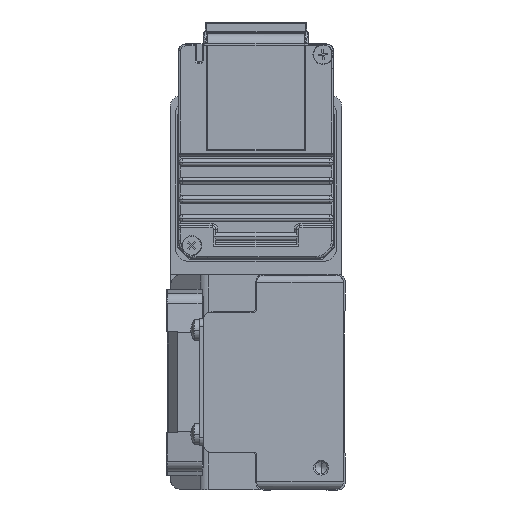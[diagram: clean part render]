
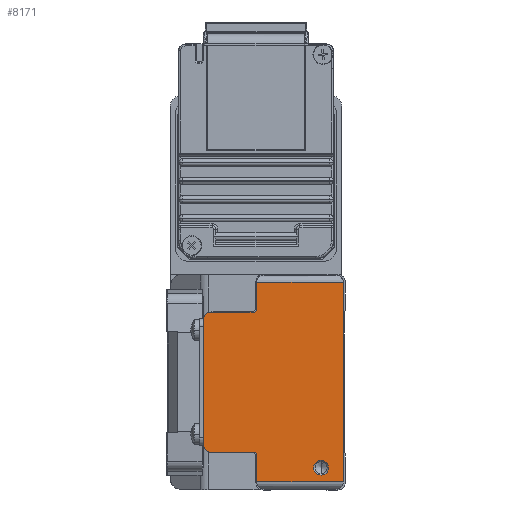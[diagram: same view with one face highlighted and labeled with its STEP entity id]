
A CAD part, left-side view. The second image highlights one B-rep face of the part: STEP entity #8171.
In plain terms, the highlighted planar face has unit normal (-1, 0, 0) as drawn and (0, 0, 1) by its records, which use the part's own axes.
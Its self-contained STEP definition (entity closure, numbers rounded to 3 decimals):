
#1043 = EDGE_LOOP ( 'NONE', ( #35201, #5279 ) ) ;
#1186 = CARTESIAN_POINT ( 'NONE',  ( 19.8, 23.8, 920. ) ) ;
#1639 = VERTEX_POINT ( 'NONE', #4481 ) ;
#1907 = CARTESIAN_POINT ( 'NONE',  ( 26.8, 23.8, 920. ) ) ;
#2603 = EDGE_CURVE ( 'NONE', #1639, #8890, #9750, .T. ) ;
#2639 = LINE ( 'NONE', #2874, #23927 ) ;
#2874 = CARTESIAN_POINT ( 'NONE',  ( -18.8, 36.5, 920. ) ) ;
#3330 = CARTESIAN_POINT ( 'NONE',  ( 17.3, 36.5, 920. ) ) ;
#3554 = DIRECTION ( 'NONE',  ( 0., 0., 1. ) ) ;
#3935 = VECTOR ( 'NONE', #27468, 1000. ) ;
#4034 = EDGE_CURVE ( 'NONE', #36002, #36193, #9581, .T. ) ;
#4310 = ORIENTED_EDGE ( 'NONE', *, *, #44993, .T. ) ;
#4481 = CARTESIAN_POINT ( 'NONE',  ( 18.8, 36.5, 920. ) ) ;
#4890 = AXIS2_PLACEMENT_3D ( 'NONE', #31713, #45859, #14208 ) ;
#5279 = ORIENTED_EDGE ( 'NONE', *, *, #30602, .T. ) ;
#5516 = VERTEX_POINT ( 'NONE', #11711 ) ;
#6829 = CARTESIAN_POINT ( 'NONE',  ( -19.8, 23.8, 920. ) ) ;
#6941 = VECTOR ( 'NONE', #36110, 1000. ) ;
#7126 = LINE ( 'NONE', #21314, #15346 ) ;
#7818 = AXIS2_PLACEMENT_3D ( 'NONE', #9421, #9192, #37601 ) ;
#8171 = ADVANCED_FACE ( 'NONE', ( #14975, #22644 ), #15683, .T. ) ;
#8238 = VERTEX_POINT ( 'NONE', #45421 ) ;
#8322 = EDGE_CURVE ( 'NONE', #5516, #27614, #22115, .T. ) ;
#8685 = DIRECTION ( 'NONE',  ( 1., 0., 0. ) ) ;
#8890 = VERTEX_POINT ( 'NONE', #26391 ) ;
#9192 = DIRECTION ( 'NONE',  ( 0., 0., 1. ) ) ;
#9421 = CARTESIAN_POINT ( 'NONE',  ( -17.3, 36.5, 920. ) ) ;
#9495 = AXIS2_PLACEMENT_3D ( 'NONE', #35453, #3554, #17734 ) ;
#9581 = LINE ( 'NONE', #13773, #11297 ) ;
#9750 = CIRCLE ( 'NONE', #31370, 1.5 ) ;
#9796 = CARTESIAN_POINT ( 'NONE',  ( -25., 6.5, 920. ) ) ;
#10673 = EDGE_CURVE ( 'NONE', #19476, #8238, #32919, .T. ) ;
#10838 = DIRECTION ( 'NONE',  ( 1., 0., 0. ) ) ;
#10846 = EDGE_CURVE ( 'NONE', #22187, #39930, #40236, .T. ) ;
#11297 = VECTOR ( 'NONE', #16571, 1000. ) ;
#11711 = CARTESIAN_POINT ( 'NONE',  ( -19.8, 23.8, 920. ) ) ;
#12294 = CARTESIAN_POINT ( 'NONE',  ( 26.8, 0.5, 920. ) ) ;
#12777 = AXIS2_PLACEMENT_3D ( 'NONE', #42614, #21450, #14469 ) ;
#13515 = VERTEX_POINT ( 'NONE', #32532 ) ;
#13773 = CARTESIAN_POINT ( 'NONE',  ( 26.8, 24., 920. ) ) ;
#14208 = DIRECTION ( 'NONE',  ( -1., 0., 0. ) ) ;
#14291 = ORIENTED_EDGE ( 'NONE', *, *, #10846, .T. ) ;
#14469 = DIRECTION ( 'NONE',  ( -1., 0., 0. ) ) ;
#14975 = FACE_BOUND ( 'NONE', #1043, .T. ) ;
#15346 = VECTOR ( 'NONE', #35534, 1000. ) ;
#15683 = PLANE ( 'NONE',  #21678 ) ;
#15776 = EDGE_LOOP ( 'NONE', ( #34989, #25258, #37331, #14291, #31511, #34124, #4310, #41833, #29625, #34621, #43266, #20243 ) ) ;
#16571 = DIRECTION ( 'NONE',  ( 0., -1., 0. ) ) ;
#17069 = CARTESIAN_POINT ( 'NONE',  ( -18.8, 24.8, 920. ) ) ;
#17123 = EDGE_CURVE ( 'NONE', #39930, #36193, #28551, .T. ) ;
#17734 = DIRECTION ( 'NONE',  ( 1., 0., 0. ) ) ;
#17856 = EDGE_CURVE ( 'NONE', #30916, #22032, #40482, .T. ) ;
#18650 = CARTESIAN_POINT ( 'NONE',  ( 26.8, 23.8, 920. ) ) ;
#19399 = CARTESIAN_POINT ( 'NONE',  ( -26.8, 21.8, 920. ) ) ;
#19476 = VERTEX_POINT ( 'NONE', #9796 ) ;
#19626 = VECTOR ( 'NONE', #21702, 1000. ) ;
#19760 = CIRCLE ( 'NONE', #4890, 2. ) ;
#20243 = ORIENTED_EDGE ( 'NONE', *, *, #20728, .T. ) ;
#20320 = VERTEX_POINT ( 'NONE', #41445 ) ;
#20728 = EDGE_CURVE ( 'NONE', #13515, #20320, #36088, .T. ) ;
#21314 = CARTESIAN_POINT ( 'NONE',  ( 18.8, 24.8, 920. ) ) ;
#21450 = DIRECTION ( 'NONE',  ( 0., 0., -1. ) ) ;
#21678 = AXIS2_PLACEMENT_3D ( 'NONE', #19399, #26143, #8685 ) ;
#21689 = DIRECTION ( 'NONE',  ( 0., 0., 1. ) ) ;
#21702 = DIRECTION ( 'NONE',  ( -1., 0., 0. ) ) ;
#21931 = DIRECTION ( 'NONE',  ( 1., 0., 0. ) ) ;
#22032 = VERTEX_POINT ( 'NONE', #1186 ) ;
#22115 = CIRCLE ( 'NONE', #9495, 1. ) ;
#22187 = VERTEX_POINT ( 'NONE', #34453 ) ;
#22556 = VECTOR ( 'NONE', #10838, 1000. ) ;
#22644 = FACE_OUTER_BOUND ( 'NONE', #15776, .T. ) ;
#23422 = DIRECTION ( 'NONE',  ( 1., 0., 0. ) ) ;
#23927 = VECTOR ( 'NONE', #38240, 1000. ) ;
#24387 = LINE ( 'NONE', #38584, #28374 ) ;
#24474 = CARTESIAN_POINT ( 'NONE',  ( -26.8, 0.5, 920. ) ) ;
#25258 = ORIENTED_EDGE ( 'NONE', *, *, #8322, .F. ) ;
#26143 = DIRECTION ( 'NONE',  ( 0., 0., 1. ) ) ;
#26314 = CARTESIAN_POINT ( 'NONE',  ( -26.8, 24., 920. ) ) ;
#26391 = CARTESIAN_POINT ( 'NONE',  ( 17.3, 38., 920. ) ) ;
#27468 = DIRECTION ( 'NONE',  ( -1., 0., 0. ) ) ;
#27614 = VERTEX_POINT ( 'NONE', #17069 ) ;
#28374 = VECTOR ( 'NONE', #35114, 1000. ) ;
#28551 = LINE ( 'NONE', #42719, #22556 ) ;
#29625 = ORIENTED_EDGE ( 'NONE', *, *, #31041, .T. ) ;
#30602 = EDGE_CURVE ( 'NONE', #8238, #19476, #19760, .T. ) ;
#30916 = VERTEX_POINT ( 'NONE', #41536 ) ;
#31041 = EDGE_CURVE ( 'NONE', #30916, #1639, #7126, .T. ) ;
#31370 = AXIS2_PLACEMENT_3D ( 'NONE', #3330, #21689, #21931 ) ;
#31511 = ORIENTED_EDGE ( 'NONE', *, *, #17123, .T. ) ;
#31713 = CARTESIAN_POINT ( 'NONE',  ( -23., 6.5, 920. ) ) ;
#32532 = CARTESIAN_POINT ( 'NONE',  ( -17.3, 38., 920. ) ) ;
#32919 = CIRCLE ( 'NONE', #12777, 2. ) ;
#33801 = LINE ( 'NONE', #1907, #3935 ) ;
#34124 = ORIENTED_EDGE ( 'NONE', *, *, #4034, .F. ) ;
#34453 = CARTESIAN_POINT ( 'NONE',  ( -26.8, 23.8, 920. ) ) ;
#34566 = AXIS2_PLACEMENT_3D ( 'NONE', #37400, #38072, #23422 ) ;
#34621 = ORIENTED_EDGE ( 'NONE', *, *, #2603, .T. ) ;
#34952 = EDGE_CURVE ( 'NONE', #8890, #13515, #24387, .T. ) ;
#34989 = ORIENTED_EDGE ( 'NONE', *, *, #44660, .T. ) ;
#35114 = DIRECTION ( 'NONE',  ( -1., 0., 0. ) ) ;
#35201 = ORIENTED_EDGE ( 'NONE', *, *, #10673, .T. ) ;
#35249 = LINE ( 'NONE', #6829, #19626 ) ;
#35453 = CARTESIAN_POINT ( 'NONE',  ( -19.8, 24.8, 920. ) ) ;
#35534 = DIRECTION ( 'NONE',  ( 0., 1., 0. ) ) ;
#36002 = VERTEX_POINT ( 'NONE', #18650 ) ;
#36088 = CIRCLE ( 'NONE', #7818, 1.5 ) ;
#36110 = DIRECTION ( 'NONE',  ( 0., -1., 0. ) ) ;
#36193 = VERTEX_POINT ( 'NONE', #12294 ) ;
#37331 = ORIENTED_EDGE ( 'NONE', *, *, #45570, .T. ) ;
#37400 = CARTESIAN_POINT ( 'NONE',  ( 19.8, 24.8, 920. ) ) ;
#37601 = DIRECTION ( 'NONE',  ( 1., 0., 0. ) ) ;
#38072 = DIRECTION ( 'NONE',  ( 0., 0., 1. ) ) ;
#38240 = DIRECTION ( 'NONE',  ( 0., -1., 0. ) ) ;
#38584 = CARTESIAN_POINT ( 'NONE',  ( 17.3, 38., 920. ) ) ;
#39930 = VERTEX_POINT ( 'NONE', #24474 ) ;
#40236 = LINE ( 'NONE', #26314, #6941 ) ;
#40482 = CIRCLE ( 'NONE', #34566, 1. ) ;
#41445 = CARTESIAN_POINT ( 'NONE',  ( -18.8, 36.5, 920. ) ) ;
#41536 = CARTESIAN_POINT ( 'NONE',  ( 18.8, 24.8, 920. ) ) ;
#41833 = ORIENTED_EDGE ( 'NONE', *, *, #17856, .F. ) ;
#42614 = CARTESIAN_POINT ( 'NONE',  ( -23., 6.5, 920. ) ) ;
#42719 = CARTESIAN_POINT ( 'NONE',  ( -26.8, 0.5, 920. ) ) ;
#43266 = ORIENTED_EDGE ( 'NONE', *, *, #34952, .T. ) ;
#44660 = EDGE_CURVE ( 'NONE', #20320, #27614, #2639, .T. ) ;
#44993 = EDGE_CURVE ( 'NONE', #36002, #22032, #33801, .T. ) ;
#45421 = CARTESIAN_POINT ( 'NONE',  ( -21., 6.5, 920. ) ) ;
#45570 = EDGE_CURVE ( 'NONE', #5516, #22187, #35249, .T. ) ;
#45859 = DIRECTION ( 'NONE',  ( 0., 0., -1. ) ) ;
